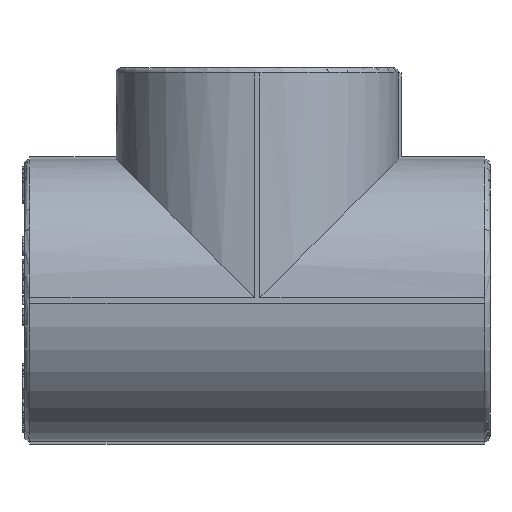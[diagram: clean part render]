
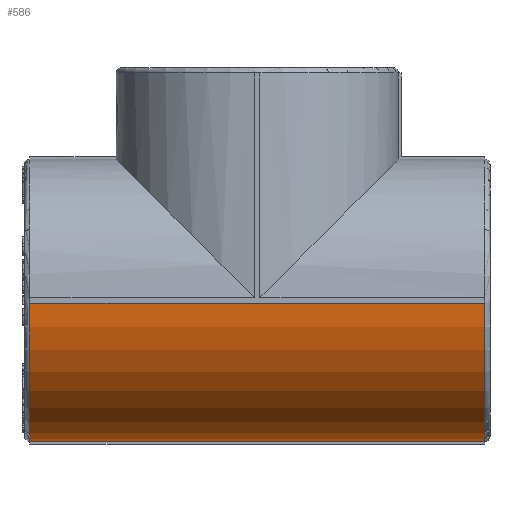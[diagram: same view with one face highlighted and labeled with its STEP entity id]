
A CAD part, left-side view. The second image highlights one B-rep face of the part: STEP entity #586.
In plain terms, the highlighted cylindrical face has radius 27 mm (diameter 54 mm), a partial arc.
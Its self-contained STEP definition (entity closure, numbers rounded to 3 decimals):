
#586=ADVANCED_FACE('',(#4585),#4587,.T.);
#4585=FACE_BOUND('',#4586,.T.);
#4586=EDGE_LOOP('',(#11910,#11911,#11912,#11913));
#4587=CYLINDRICAL_SURFACE('',#4588,27.);
#4588=AXIS2_PLACEMENT_3D('',#4589,#4590,#4591);
#4589=CARTESIAN_POINT('',(0.,-44.5,0.));
#4590=DIRECTION('',(0.,1.,0.));
#4591=DIRECTION('',(-1.,0.,0.));
#11910=ORIENTED_EDGE('',*,*,#17143,.F.);
#11911=ORIENTED_EDGE('',*,*,#17144,.T.);
#11912=ORIENTED_EDGE('',*,*,#17145,.F.);
#11913=ORIENTED_EDGE('',*,*,#17118,.F.);
#17118=EDGE_CURVE('',#21032,#21034,#21035,.T.);
#17143=EDGE_CURVE('',#21077,#21032,#21078,.T.);
#17144=EDGE_CURVE('',#21077,#21079,#21080,.T.);
#17145=EDGE_CURVE('',#21034,#21079,#21081,.F.);
#21032=VERTEX_POINT('',#28877);
#21034=VERTEX_POINT('',#28882);
#21035=CIRCLE('',#28883,27.);
#21077=VERTEX_POINT('',#28985);
#21078=LINE('',#28986,#28987);
#21079=VERTEX_POINT('',#28989);
#21080=CIRCLE('',#28990,27.);
#21081=LINE('',#28994,#28995);
#28877=CARTESIAN_POINT('',(-0.5,43.5,-26.995));
#28882=CARTESIAN_POINT('',(-26.995,43.5,-0.5));
#28883=AXIS2_PLACEMENT_3D('',#28884,#28885,#28886);
#28884=CARTESIAN_POINT('',(0.,43.5,0.));
#28885=DIRECTION('',(0.,1.,0.));
#28886=DIRECTION('',(-0.019,0.,-1.));
#28985=CARTESIAN_POINT('',(-0.5,-43.5,-26.995));
#28986=CARTESIAN_POINT('',(-0.5,-43.5,-26.995));
#28987=VECTOR('',#28988,1.);
#28988=DIRECTION('',(0.,1.,0.));
#28989=CARTESIAN_POINT('',(-26.995,-43.5,-0.5));
#28990=AXIS2_PLACEMENT_3D('',#28991,#28992,#28993);
#28991=CARTESIAN_POINT('',(0.,-43.5,0.));
#28992=DIRECTION('',(0.,1.,0.));
#28993=DIRECTION('',(-0.019,0.,-1.));
#28994=CARTESIAN_POINT('',(-26.995,-43.5,-0.5));
#28995=VECTOR('',#28996,1.);
#28996=DIRECTION('',(0.,1.,0.));
